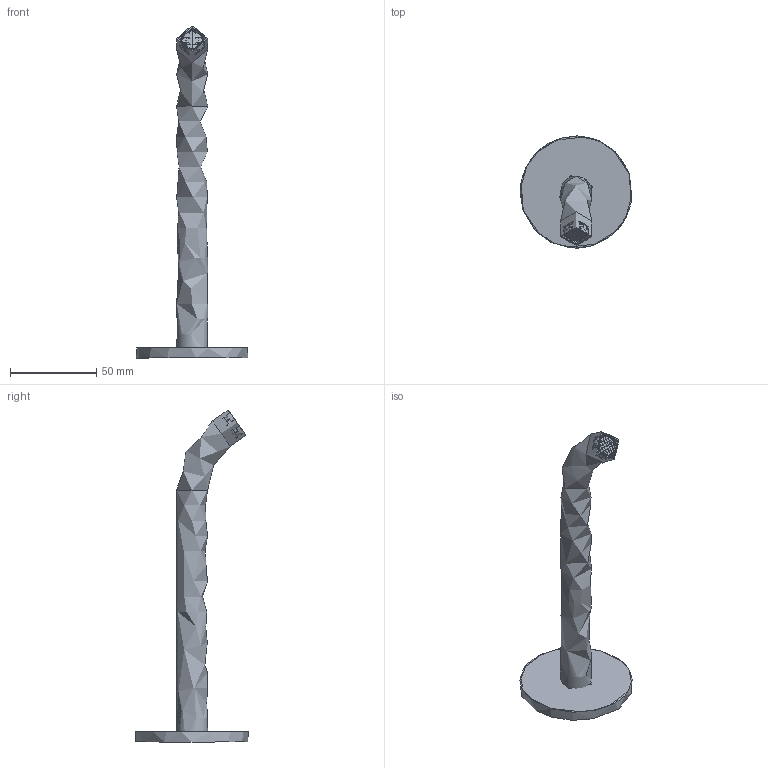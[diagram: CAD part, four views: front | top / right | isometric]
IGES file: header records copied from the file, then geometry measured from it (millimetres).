
Global section: file name: PR52CA202; native system: Autodesk Inventor 2017; preprocessor: unknown; author: PIZZERA; date: 20210408.145807; units: millimetre
Bounding box: 64.77 x 64.99 x 192.38 mm (x, y, z)
Volume: 67871.5 mm3; surface area: 19324.5 mm2
Topology: 1 solids, 1 shells, 646 faces, 1612 edges, 965 vertices
Faces by surface type: bspline 646
